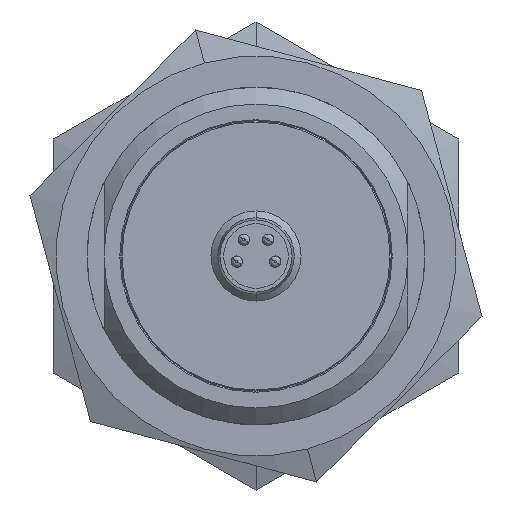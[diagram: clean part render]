
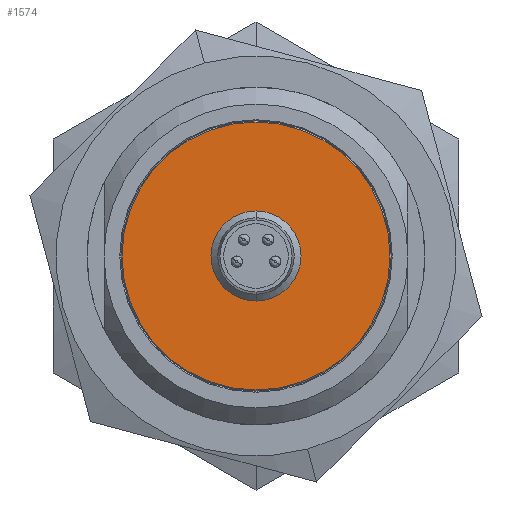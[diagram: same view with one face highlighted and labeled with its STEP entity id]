
A CAD part, left-side view. The second image highlights one B-rep face of the part: STEP entity #1574.
In plain terms, the highlighted planar face has unit normal (-1, 0, 0).
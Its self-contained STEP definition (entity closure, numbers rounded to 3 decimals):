
#289=CARTESIAN_POINT('',(0.,0.,0.));
#290=DIRECTION('',(-1.,0.,0.));
#291=DIRECTION('',(0.,0.,-1.));
#292=AXIS2_PLACEMENT_3D('',#289,#290,#291);
#297=CARTESIAN_POINT('',(0.,0.,0.));
#298=DIRECTION('',(-1.,0.,0.));
#299=DIRECTION('',(0.,0.,1.));
#300=AXIS2_PLACEMENT_3D('',#297,#298,#299);
#305=CARTESIAN_POINT('',(0.,0.,0.));
#306=DIRECTION('',(-1.,0.,0.));
#307=DIRECTION('',(0.,1.,0.));
#308=AXIS2_PLACEMENT_3D('',#305,#306,#307);
#313=CARTESIAN_POINT('',(0.,0.,0.));
#314=DIRECTION('',(1.,0.,0.));
#315=DIRECTION('',(0.,1.,0.));
#316=AXIS2_PLACEMENT_3D('',#313,#314,#315);
#1229=CARTESIAN_POINT('',(0.,0.,-11.9));
#1230=CARTESIAN_POINT('',(0.,0.,11.9));
#1231=VERTEX_POINT('',#1229);
#1232=VERTEX_POINT('',#1230);
#1253=CARTESIAN_POINT('',(0.,3.975,0.));
#1254=VERTEX_POINT('',#1253);
#1255=CARTESIAN_POINT('',(0.,-3.975,0.));
#1256=VERTEX_POINT('',#1255);
#1559=CARTESIAN_POINT('',(0.,0.,0.));
#1560=DIRECTION('',(-1.,0.,0.));
#1561=DIRECTION('',(0.,0.,-1.));
#1562=AXIS2_PLACEMENT_3D('',#1559,#1560,#1561);
#1563=PLANE('',#1562);
#1564=ORIENTED_EDGE('',*,*,#1541,.F.);
#1565=ORIENTED_EDGE('',*,*,#1526,.F.);
#1566=EDGE_LOOP('',(#1564,#1565));
#1567=FACE_OUTER_BOUND('',#1566,.F.);
#1569=ORIENTED_EDGE('',*,*,#1568,.T.);
#1571=ORIENTED_EDGE('',*,*,#1570,.F.);
#1572=EDGE_LOOP('',(#1569,#1571));
#1573=FACE_BOUND('',#1572,.F.);
#293=CIRCLE('',#292,11.9);
#301=CIRCLE('',#300,11.9);
#309=CIRCLE('',#308,3.975);
#317=CIRCLE('',#316,3.975);
#1526=EDGE_CURVE('',#1232,#1231,#301,.T.);
#1541=EDGE_CURVE('',#1231,#1232,#293,.T.);
#1568=EDGE_CURVE('',#1254,#1256,#309,.T.);
#1570=EDGE_CURVE('',#1254,#1256,#317,.T.);
#1574=ADVANCED_FACE('',(#1567,#1573),#1563,.T.);
